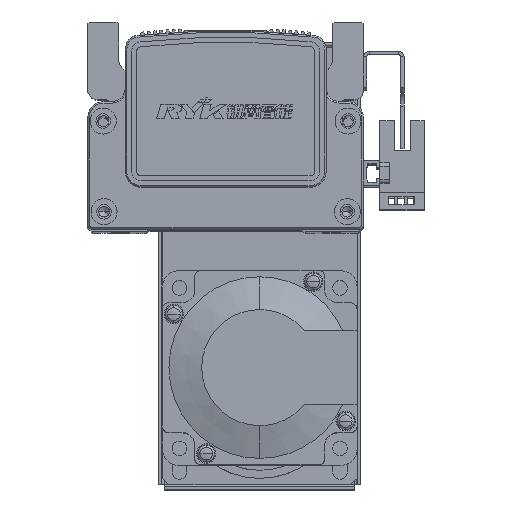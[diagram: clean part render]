
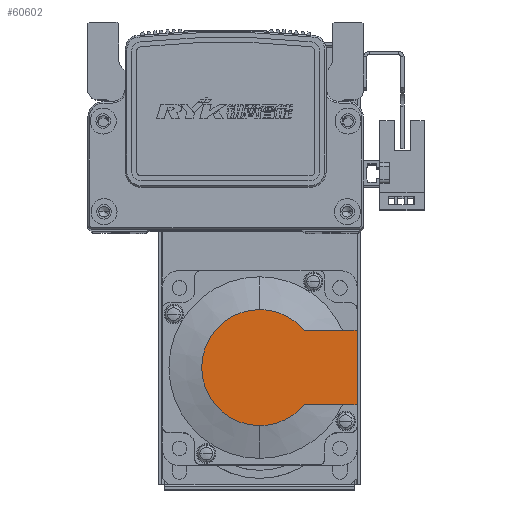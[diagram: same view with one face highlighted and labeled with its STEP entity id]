
A CAD part, top view. The second image highlights one B-rep face of the part: STEP entity #60602.
In plain terms, the highlighted planar face has unit normal (0, 0, 1) as drawn and (-1, 0, 0) by its records, which use the part's own axes.
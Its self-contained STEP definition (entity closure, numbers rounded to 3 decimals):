
#1845 = VECTOR ( 'NONE', #43043, 1000. ) ;
#1850 = LINE ( 'NONE', #43053, #1845 ) ;
#1871 = VECTOR ( 'NONE', #42988, 1000. ) ;
#1886 = LINE ( 'NONE', #42993, #1871 ) ;
#1924 = LINE ( 'NONE', #43208, #1926 ) ;
#1926 = VECTOR ( 'NONE', #43189, 1000. ) ;
#11751 = VERTEX_POINT ( 'NONE', #49963 ) ;
#11873 = VERTEX_POINT ( 'NONE', #50030 ) ;
#12282 = VERTEX_POINT ( 'NONE', #50273 ) ;
#14108 = ORIENTED_EDGE ( 'NONE', *, *, #28717, .T. ) ;
#14132 = ORIENTED_EDGE ( 'NONE', *, *, #29062, .T. ) ;
#14162 = ORIENTED_EDGE ( 'NONE', *, *, #28956, .T. ) ;
#14184 = ORIENTED_EDGE ( 'NONE', *, *, #28994, .F. ) ;
#14219 = ORIENTED_EDGE ( 'NONE', *, *, #28631, .T. ) ;
#14221 = ORIENTED_EDGE ( 'NONE', *, *, #28986, .F. ) ;
#15464 = AXIS2_PLACEMENT_3D ( 'NONE', #40196, #40118, #40200 ) ;
#16456 = VERTEX_POINT ( 'NONE', #50467 ) ;
#21656 = FACE_OUTER_BOUND ( 'NONE', #55190, .T. ) ;
#24706 = CARTESIAN_POINT ( 'NONE',  ( -99., 30., 11.45 ) ) ;
#26412 = AXIS2_PLACEMENT_3D ( 'NONE', #29781, #29782, #29785 ) ;
#26436 = AXIS2_PLACEMENT_3D ( 'NONE', #27515, #27481, #27522 ) ;
#26634 = AXIS2_PLACEMENT_3D ( 'NONE', #42949, #42956, #42953 ) ;
#27476 = CARTESIAN_POINT ( 'NONE',  ( -99., 30., -11.45 ) ) ;
#27481 = DIRECTION ( 'NONE',  ( -1., 0., 0. ) ) ;
#27515 = CARTESIAN_POINT ( 'NONE',  ( -99., 0., 0. ) ) ;
#27522 = DIRECTION ( 'NONE',  ( 0., 0., -1. ) ) ;
#28631 = EDGE_CURVE ( 'NONE', #12282, #11873, #41763, .T. ) ;
#28717 = EDGE_CURVE ( 'NONE', #11751, #12282, #41844, .T. ) ;
#28956 = EDGE_CURVE ( 'NONE', #16456, #11751, #42546, .T. ) ;
#28986 = EDGE_CURVE ( 'NONE', #61290, #11873, #1886, .T. ) ;
#28994 = EDGE_CURVE ( 'NONE', #32037, #61290, #1850, .T. ) ;
#29062 = EDGE_CURVE ( 'NONE', #32037, #16456, #1924, .T. ) ;
#29781 = CARTESIAN_POINT ( 'NONE',  ( -99., 0., 0. ) ) ;
#29782 = DIRECTION ( 'NONE',  ( -1., 0., 0. ) ) ;
#29785 = DIRECTION ( 'NONE',  ( 0., 0., -1. ) ) ;
#32037 = VERTEX_POINT ( 'NONE', #27476 ) ;
#40118 = DIRECTION ( 'NONE',  ( -1., 0., 0. ) ) ;
#40168 = PLANE ( 'NONE',  #15464 ) ;
#40196 = CARTESIAN_POINT ( 'NONE',  ( -99., -8.941, 0. ) ) ;
#40200 = DIRECTION ( 'NONE',  ( 0., 0., 1. ) ) ;
#41763 = CIRCLE ( 'NONE', #26412, 17.881 ) ;
#41844 = CIRCLE ( 'NONE', #26436, 17.881 ) ;
#42546 = CIRCLE ( 'NONE', #26634, 17.881 ) ;
#42949 = CARTESIAN_POINT ( 'NONE',  ( -99., 0., 0. ) ) ;
#42953 = DIRECTION ( 'NONE',  ( 0., 0., -1. ) ) ;
#42956 = DIRECTION ( 'NONE',  ( -1., 0., 0. ) ) ;
#42988 = DIRECTION ( 'NONE',  ( 0., -1., 0. ) ) ;
#42993 = CARTESIAN_POINT ( 'NONE',  ( -99., 0., 11.45 ) ) ;
#43043 = DIRECTION ( 'NONE',  ( 0., 0., 1. ) ) ;
#43053 = CARTESIAN_POINT ( 'NONE',  ( -99., 30., 25. ) ) ;
#43189 = DIRECTION ( 'NONE',  ( 0., -1., 0. ) ) ;
#43208 = CARTESIAN_POINT ( 'NONE',  ( -99., -8.941, -11.45 ) ) ;
#49963 = CARTESIAN_POINT ( 'NONE',  ( -99., 0., -17.881 ) ) ;
#50030 = CARTESIAN_POINT ( 'NONE',  ( -99., 13.735, 11.45 ) ) ;
#50273 = CARTESIAN_POINT ( 'NONE',  ( -99., 0., 17.881 ) ) ;
#50467 = CARTESIAN_POINT ( 'NONE',  ( -99., 13.735, -11.45 ) ) ;
#55190 = EDGE_LOOP ( 'NONE', ( #14132, #14162, #14108, #14219, #14221, #14184 ) ) ;
#60602 = ADVANCED_FACE ( 'NONE', ( #21656 ), #40168, .T. ) ;
#61290 = VERTEX_POINT ( 'NONE', #24706 ) ;
